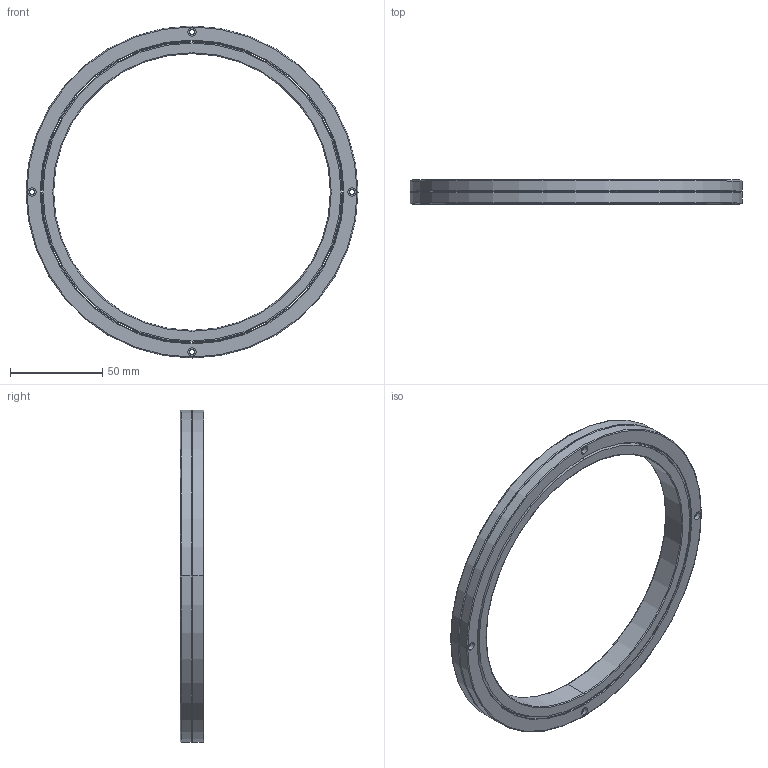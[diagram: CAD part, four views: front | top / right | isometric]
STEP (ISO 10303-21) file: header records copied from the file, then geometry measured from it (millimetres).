
FILE_DESCRIPTION((''),'2;1');
FILE_NAME('RB15013','2015-08-26T',('Administrator'),(''),'PRO/ENGINEER BY PARAMETRIC TECHNOLOGY CORPORATION, 2010180','PRO/ENGINEER BY PARAMETRIC TECHNOLOGY CORPORATION, 2010180','');
FILE_SCHEMA(('AUTOMOTIVE_DESIGN_CC2 { 1 2 10303 214 -1 1 5 2 }'));
Length unit declared in the file: millimetre
Products named in the file (1): RB15013
Bounding box: 180 x 13 x 180 mm (x, y, z)
Volume: 84665.8 mm3; surface area: 47805.6 mm2
Topology: 2 solids, 2 shells, 88 faces, 184 edges, 114 vertices
Faces by surface type: cylinder 50, plane 18, cone 12, torus 8
Entity records: 2497 total; most frequent: DIRECTION 482, CARTESIAN_POINT 386, ORIENTED_EDGE 368, AXIS2_PLACEMENT_3D 210, EDGE_CURVE 184, CIRCLE 122, VERTEX_POINT 114, EDGE_LOOP 114
